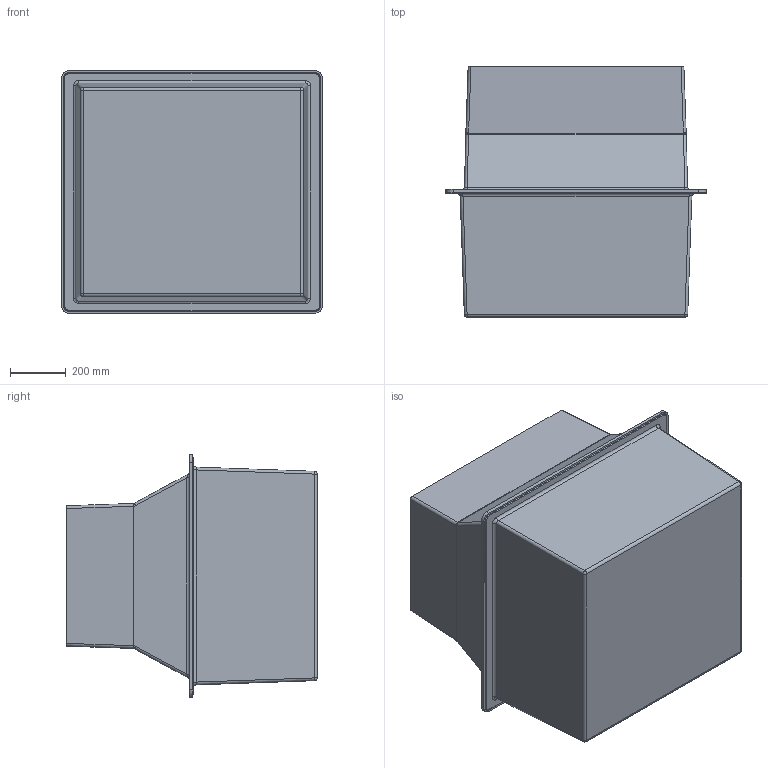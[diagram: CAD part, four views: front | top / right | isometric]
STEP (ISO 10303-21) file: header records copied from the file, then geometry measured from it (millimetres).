
FILE_DESCRIPTION (( 'STEP AP214' ), '1' );
FILE_NAME ('KP_DC800.step', '2012-10-04T09:36:29', ( 'robinj' ), ( 'Microsoft' ), 'SwSTEP 2.0', 'SolidWorks 2012', '' );
FILE_SCHEMA (( 'AUTOMOTIVE_DESIGN' ));
Length unit declared in the file: millimetre
Products named in the file (1): KP_DC800
Bounding box: 934.18 x 897 x 870.18 mm (x, y, z)
Volume: 25443983.7 mm3; surface area: 7136232.9 mm2
Topology: 1 solids, 1 shells, 210 faces, 472 edges, 280 vertices
Faces by surface type: cylinder 80, plane 62, bspline 52, sphere 16
Entity records: 8085 total; most frequent: CARTESIAN_POINT 3759, ORIENTED_EDGE 944, DIRECTION 818, EDGE_CURVE 472, AXIS2_PLACEMENT_3D 303, VERTEX_POINT 280, EDGE_LOOP 226, LINE 212
